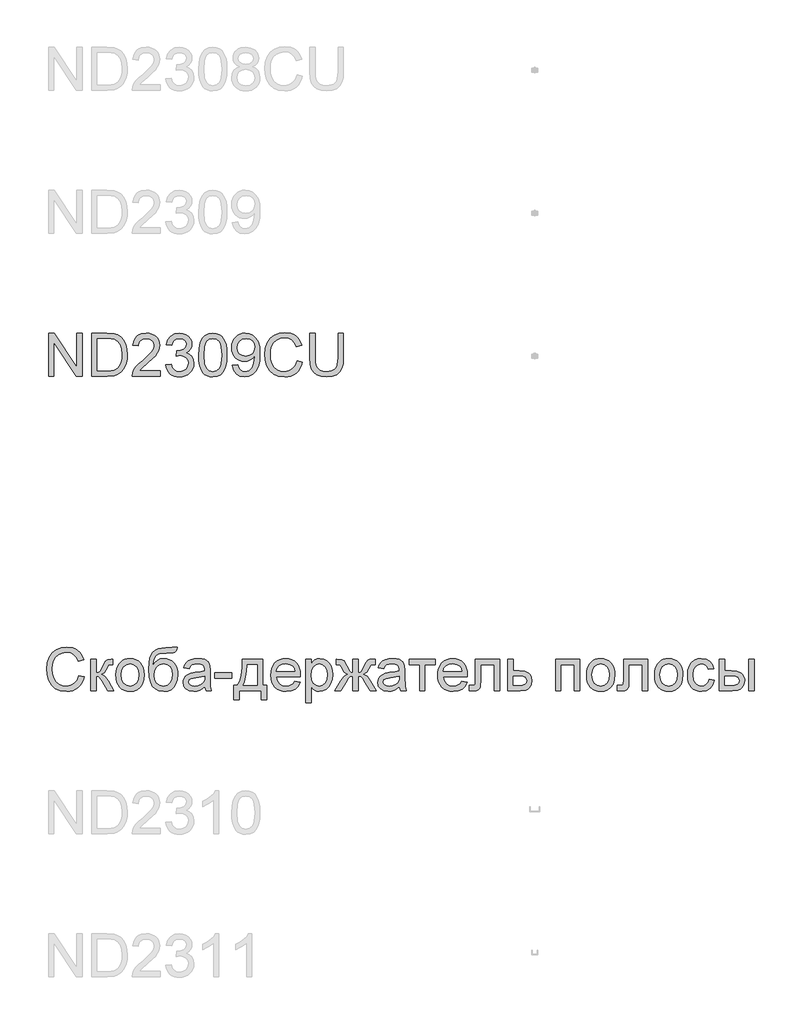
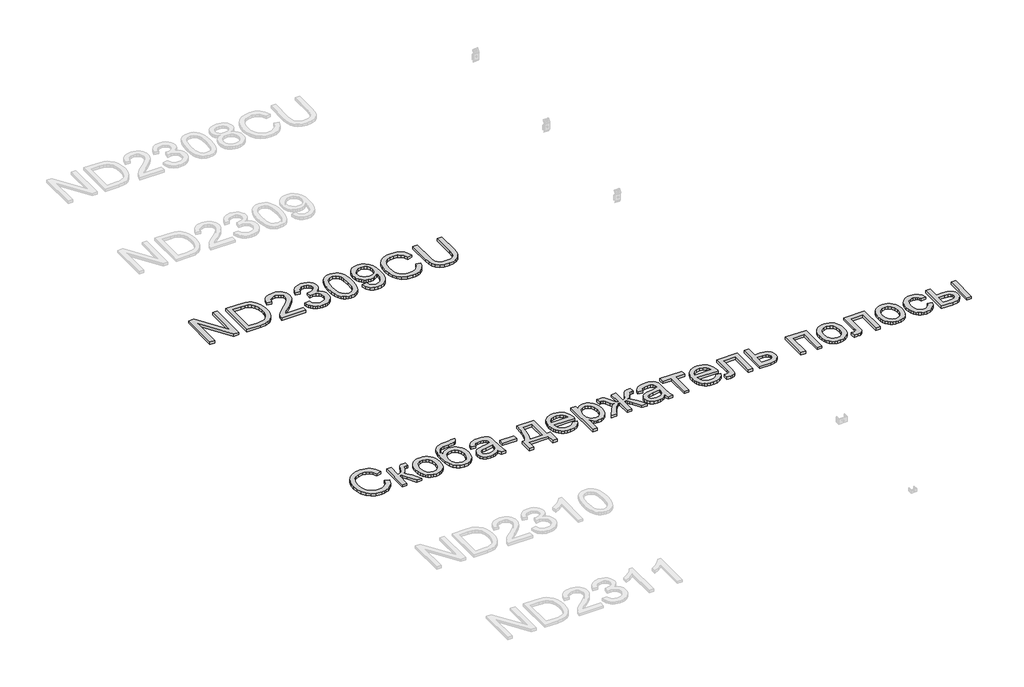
# One storey, part 107 of 124: 2 proxies.
"""IFC4 building model written with IfcOpenShell, lengths in millimetres."""

from ifc_helpers import new_model, si_unit, origin, origin_with_axes, place, context, project, spatial, polyline, outline, extrude, element, save

model = new_model("IFC4")

# Units and contexts
model_context = context("Model", 3, world=origin())
ifc_project = project(units=[si_unit("LENGTHUNIT", "METRE", prefix="MILLI")], contexts=[model_context])

# Site, building, storey
site = spatial("IfcSite", under=ifc_project)
building = spatial("IfcBuilding", under=site)
storey = spatial("IfcBuildingStorey", under=building, Name="Этаж 01", Elevation=0.0)

# Proxies
placement = place(None, origin())
element("IfcBuildingElementProxy", 1, Name="300", ObjectType="300", at=placement, inside=storey, context=model_context, shape_type="SweptSolid", body=[
    extrude(outline(polyline([(34161.4897718, -16850.5404686), (34161.4897718, -16549.1715382), (34201.8096385, -16549.1715382), (34359.2631324, -16787.9269531), (34359.2631324, -16549.1715382), (34396.9342487, -16549.1715382), (34396.9342487, -16850.5404686), (34356.6143821, -16850.5404686), (34199.1608881, -16611.7114774), (34199.1608881, -16850.5404686), (34161.4897718, -16850.5404686)])), origin_with_axes(), (0.0, 0.0, 1.0), 20.0),
    extrude(outline(polyline([(34462.8587023, -16850.5404686), (34462.8587023, -16549.1715382), (34566.8221541, -16549.1715382), (34620.6065018, -16553.5125457), (34644.6291961, -16561.8818611), (34664.899494, -16575.0704306), (34685.7400091, -16598.0262671), (34700.5840476, -16626.57391), (34709.4683977, -16660.1615361), (34712.4298478, -16698.2373226), (34710.4248909, -16730.5833471), (34704.4100203, -16759.0482164), (34695.2497586, -16783.2824429), (34683.8086286, -16802.9365385), (34670.6384532, -16818.4519616), (34656.2910553, -16830.2701707), (34639.819139, -16839.0349592), (34620.275408, -16845.3901207), (34571.8253492, -16850.5404686), (34462.8587023, -16850.5404686)]), holes=[polyline([(34500.5298186, -16812.8693523), (34567.1900361, -16812.8693523), (34594.7627916, -16811.508189), (34615.6768831, -16807.4246988), (34631.4590207, -16800.8580052), (34643.6359147, -16792.0472314), (34656.7233167, -16775.740862), (34666.554963, -16754.6336325), (34672.7077894, -16728.6335725), (34674.7587315, -16697.6487114), (34670.7396207, -16656.5930808), (34658.6822883, -16626.2796044), (34640.8676027, -16605.4574835), (34619.5764322, -16592.8759192), (34597.9081827, -16588.3509707), (34566.1599665, -16586.8426545), (34500.5298186, -16586.8426545), (34500.5298186, -16812.8693523)])]), origin_with_axes(), (0.0, 0.0, 1.0), 20.0),
    extrude(outline(polyline([(34943.1654352, -16812.8693523), (34943.1654352, -16850.5404686), (34745.3920746, -16850.5404686), (34749.4387765, -16824.5679998), (34758.7277969, -16804.2701107), (34772.3210366, -16784.5792269), (34791.9843293, -16763.9686381), (34819.4835084, -16740.9116341), (34860.1344689, -16704.8040162), (34884.5250452, -16678.1509657), (34896.7203333, -16656.5195044), (34900.7854293, -16635.4766543), (34896.9502595, -16616.613505), (34885.4447501, -16600.9325349), (34867.7588232, -16590.3651246), (34845.3824009, -16586.8426545), (34821.8839384, -16590.2823512), (34803.6277944, -16600.6014411), (34791.8463735, -16616.990584), (34787.7720804, -16638.6404394), (34750.1009641, -16633.9315499), (34759.2336346, -16597.4928383), (34767.7799932, -16582.9569009), (34778.9797007, -16570.8765759), (34792.5752397, -16561.3806219), (34808.3090928, -16554.5977976), (34846.1917413, -16549.1715382), (34866.381565, -16550.6798544), (34884.3503012, -16555.2048029), (34900.0979499, -16562.7463838), (34913.624511, -16573.3045971), (34924.4885261, -16586.0976935), (34932.248537, -16600.3439237), (34936.9045435, -16616.0432879), (34938.4565456, -16633.1957859), (34936.7826826, -16651.2128066), (34931.7610933, -16668.9171276), (34922.849152, -16686.9249513), (34909.5042326, -16705.8524799), (34888.2314563, -16728.4496315), (34855.5359439, -16757.4663239), (34812.1994449, -16793.7027004), (34795.2032967, -16812.8693523), (34943.1654352, -16812.8693523)])), origin_with_axes(), (0.0, 0.0, 1.0), 20.0),
    extrude(outline(polyline([(34980.8365515, -16770.4893465), (35018.5076678, -16765.7804569), (35026.9413625, -16789.4536633), (35039.2930005, -16805.438136), (35056.169587, -16814.5432154), (35078.1781274, -16817.5782419), (35104.0034435, -16813.4027812), (35123.9426476, -16800.8763993), (35136.6897587, -16782.1879939), (35140.9387958, -16759.526463), (35136.7265469, -16738.0145634), (35124.0898004, -16720.5677597), (35104.9599367, -16709.007068), (35081.2683362, -16705.1535041), (35054.8544089, -16709.2737825), (35059.0482637, -16671.6026662), (35065.0815284, -16672.0441246), (35087.6510888, -16669.3401919), (35107.8294162, -16661.2283939), (35122.0664494, -16647.5063955), (35126.8121272, -16627.9718616), (35123.3724305, -16611.7022803), (35113.0533406, -16598.5045137), (35097.3079912, -16589.7581193), (35077.5895162, -16586.8426545), (35057.8342531, -16589.7857105), (35041.6842335, -16598.6148783), (35029.8936155, -16613.3301581), (35023.2165573, -16633.9315499), (34985.545441, -16629.2226603), (34996.6370832, -16595.3959109), (35016.3739522, -16570.1408119), (35043.3764907, -16554.4138566), (35076.265141, -16549.1715382), (35099.9475445, -16551.7559092), (35121.6985674, -16559.5090223), (35140.0374849, -16571.7410986), (35153.4835718, -16587.7623595), (35161.7333256, -16606.2208386), (35164.4832435, -16625.7645696), (35161.8712813, -16643.9747283), (35154.0353948, -16660.4926299), (35141.0859486, -16674.5641162), (35123.1333072, -16685.4350292), (35146.7145431, -16694.9631729), (35164.1889379, -16711.1867689), (35175.0046685, -16733.2229004), (35178.6099121, -16760.1886506), (35176.8072903, -16779.3001203), (35171.399425, -16796.9032737), (35162.3863161, -16812.998111), (35149.7679637, -16827.5846321), (35134.3950948, -16839.6879498), (35117.1184366, -16848.3331767), (35097.9379891, -16853.5203128), (35076.8537522, -16855.2493582), (35057.7974649, -16853.7732317), (35040.4334347, -16849.3448522), (35024.7616617, -16841.9642196), (35010.7821459, -16831.6313341), (34999.0605058, -16818.9532008), (34990.1623601, -16804.5368251), (34984.0877086, -16788.382207), (34980.8365515, -16770.4893465)])), origin_with_axes(), (0.0, 0.0, 1.0), 20.0),
    extrude(outline(polyline([(35211.5721389, -16702.2840246), (35214.3404509, -16654.045498), (35222.6453869, -16615.5742383), (35236.4041735, -16586.2816345), (35255.5340373, -16565.5790752), (35280.1729339, -16553.2734224), (35310.4588192, -16549.1715382), (35333.6721731, -16551.5995594), (35354.4575058, -16558.8836229), (35371.8399301, -16570.7386202), (35384.8445586, -16586.8794427), (35394.6670079, -16607.1681347), (35402.5028944, -16631.4667405), (35407.6348482, -16662.3228429), (35409.3454995, -16702.2840246), (35406.6047786, -16750.2466397), (35398.382616, -16788.6259289), (35384.7066028, -16817.9461239), (35365.6043302, -16838.7314566), (35340.9102513, -16851.1198828), (35310.4588192, -16855.2493582), (35289.7102746, -16853.4559335), (35271.3161749, -16848.0756593), (35255.2765199, -16839.1085356), (35241.5913097, -16826.5545626), (35228.4579224, -16803.860842), (35219.0769316, -16775.5845121), (35213.448337, -16741.725573), (35211.5721389, -16702.2840246)]), holes=[polyline([(35249.2432552, -16702.2104482), (35253.6578391, -16761.4670406), (35259.176069, -16781.7350392), (35266.9015909, -16795.7628396), (35286.6200659, -16812.1243913), (35310.4588192, -16817.5782419), (35334.2975725, -16812.1059972), (35354.0160474, -16795.6892632), (35361.7415693, -16781.6384702), (35367.2597992, -16761.3750701), (35371.6743832, -16702.2104482), (35367.406952, -16644.287428), (35362.0726631, -16624.086108), (35354.6046586, -16609.7249146), (35334.9229718, -16592.5632195), (35310.0173608, -16586.8426545), (35286.4361249, -16591.8826378), (35267.4902021, -16607.0025878), (35259.5071628, -16622.6375726), (35253.8049919, -16643.7172109), (35249.2432552, -16702.2104482)])]), origin_with_axes(), (0.0, 0.0, 1.0), 20.0),
    extrude(outline(polyline([(35447.0166158, -16775.198236), (35484.6877321, -16770.4893465), (35491.125667, -16791.8724875), (35501.6103039, -16806.4314174), (35515.8841253, -16814.7915358), (35533.6896138, -16817.5782419), (35549.6648895, -16815.7848171), (35564.1870312, -16810.404543), (35576.2535607, -16802.0260305), (35584.8619994, -16791.237891), (35597.1860462, -16758.4963934), (35602.6306997, -16714.7920124), (35602.4099705, -16707.4343725), (35589.3593568, -16723.3636629), (35572.2804351, -16735.9820153), (35552.4056103, -16744.2041779), (35530.9672871, -16746.9448988), (35513.0721273, -16745.2710357), (35496.6163058, -16740.2494465), (35481.5998226, -16731.8801311), (35468.0226777, -16720.1630895), (35456.7723864, -16705.7099257), (35448.7364641, -16689.1322433), (35443.9149107, -16670.4300423), (35442.3077262, -16649.6033229), (35443.9930856, -16628.0822262), (35449.0491638, -16608.7684214), (35457.4759608, -16591.6619086), (35469.2734765, -16576.7626878), (35483.609378, -16564.6915599), (35499.6513322, -16556.0693256), (35517.3993392, -16550.895985), (35536.853399, -16549.1715382), (35564.9503864, -16553.1078755), (35590.5273821, -16564.9168876), (35611.9197201, -16584.0099631), (35627.4627344, -16609.798491), (35636.9264987, -16645.4462563), (35640.0810868, -16694.1170443), (35636.9356958, -16745.7216912), (35627.4995226, -16785.6092965), (35611.8553408, -16815.582482), (35590.0859237, -16837.4438696), (35563.1293705, -16850.797986), (35531.9237803, -16855.2493582), (35499.7157116, -16849.9978427), (35474.0191542, -16834.2432963), (35456.0481188, -16808.9790002), (35447.0166158, -16775.198236)]), holes=[polyline([(35602.4099705, -16648.7204061), (35598.3448745, -16623.1893956), (35586.1495864, -16603.5444971), (35567.2220577, -16591.0181151), (35542.9602401, -16586.8426545), (35517.7971116, -16591.3400119), (35497.6371783, -16604.8320841), (35484.3934265, -16625.479461), (35479.9788425, -16651.4427328), (35484.1543032, -16674.7204661), (35496.6806851, -16693.1973393), (35516.3439778, -16705.2546717), (35541.9301705, -16709.2737825), (35565.9988501, -16705.2546717), (35585.3770342, -16693.1973393), (35598.1517364, -16674.0398844), (35602.4099705, -16648.7204061)])]), origin_with_axes(), (0.0, 0.0, 1.0), 20.0),
    extrude(outline(polyline([(35899.0700114, -16743.4132316), (35936.7411278, -16753.1253163), (35929.2869188, -16776.5525016), (35919.3587035, -16797.0228354), (35906.9564817, -16814.5363176), (35892.0802535, -16829.0929483), (35875.0657113, -16840.5363776), (35856.2485472, -16848.7102557), (35835.6287614, -16853.6145826), (35813.2063538, -16855.2493582), (35769.5111698, -16850.3013453), (35734.8107006, -16835.4573068), (35708.2128324, -16811.2322775), (35688.8254512, -16778.141292), (35676.988848, -16739.237771), (35673.0433136, -16697.575135), (35677.5038828, -16653.6316307), (35690.8855904, -16615.6846029), (35712.4894605, -16584.9388652), (35741.6165175, -16562.599231), (35776.1606369, -16548.9967942), (35814.0156942, -16544.4626487), (35855.3196452, -16550.3303665), (35873.2883814, -16557.6650138), (35889.4682914, -16567.9335199), (35903.5926607, -16580.8645721), (35915.394775, -16596.1868572), (35932.0322382, -16634.0051263), (35894.3611219, -16642.981447), (35881.3013111, -16615.509859), (35863.4590343, -16596.6651038), (35840.6135624, -16585.7665997), (35812.5441662, -16582.133765), (35780.1889447, -16586.1620728), (35753.6094706, -16598.2469963), (35733.4403402, -16617.1193427), (35720.31615, -16641.509919), (35713.1148599, -16669.0826745), (35710.7144299, -16697.5015586), (35713.5563183, -16732.3031954), (35722.0819836, -16762.3959426), (35736.6133224, -16786.630169), (35757.4722315, -16803.8562435), (35782.4790101, -16814.1477423), (35809.4539574, -16817.5782419), (35840.898671, -16812.9061405), (35867.1010661, -16798.8898365), (35886.8839204, -16775.6764826), (35899.0700114, -16743.4132316)])), origin_with_axes(), (0.0, 0.0, 1.0), 20.0),
    extrude(outline(polyline([(36186.3122733, -16549.1715382), (36223.9833896, -16549.1715382), (36223.9833896, -16723.0325691), (36221.4266097, -16763.7479089), (36213.7562701, -16795.100652), (36199.4272664, -16819.2888931), (36176.8944942, -16838.5107274), (36146.1027712, -16851.0647005), (36106.9969151, -16855.2493582), (36068.7463847, -16851.6073264), (36038.1661938, -16840.6812312), (36015.2471455, -16822.8481515), (35999.9800427, -16798.4851663), (35991.3991952, -16765.8080481), (35988.5389127, -16723.0325691), (35988.5389127, -16549.1715382), (36026.210029, -16549.1715382), (36026.210029, -16721.7081939), (36028.0678331, -16755.5625345), (36033.6412453, -16779.1345734), (36043.7396061, -16795.4593369), (36059.1722557, -16807.5718516), (36079.2954009, -16815.0766443), (36103.465248, -16817.5782419), (36141.7801578, -16812.630229), (36156.1229571, -16806.445213), (36167.2559859, -16797.7861905), (36175.5931116, -16785.6092965), (36181.5482014, -16768.8706657), (36186.3122733, -16721.7081939), (36186.3122733, -16549.1715382)])), origin_with_axes(), (0.0, 0.0, 1.0), 20.0),
])
element("IfcBuildingElementProxy", 2, Name="300", ObjectType="300", at=placement, inside=storey, context=model_context, shape_type="SweptSolid", body=[
    extrude(outline(polyline([(34373.3898011, -18943.4132316), (34411.0609174, -18953.1253163), (34403.6067084, -18976.5525016), (34393.6784931, -18997.0228354), (34381.2762713, -19014.5363176), (34366.4000431, -19029.0929483), (34349.3855009, -19040.5363776), (34330.5683368, -19048.7102557), (34309.948551, -19053.6145826), (34287.5261434, -19055.2493582), (34243.8309594, -19050.3013453), (34209.1304902, -19035.4573068), (34182.532622, -19011.2322775), (34163.1452408, -18978.141292), (34151.3086376, -18939.237771), (34147.3631032, -18897.575135), (34151.8236724, -18853.6316307), (34165.20538, -18815.6846029), (34186.8092501, -18784.9388652), (34215.9363071, -18762.599231), (34250.4804265, -18748.9967942), (34288.3354838, -18744.4626487), (34329.6394348, -18750.3303665), (34347.608171, -18757.6650138), (34363.788081, -18767.9335199), (34377.9124503, -18780.8645721), (34389.7145646, -18796.1868572), (34406.3520278, -18834.0051263), (34368.6809115, -18842.981447), (34355.6211007, -18815.509859), (34337.7788239, -18796.6651038), (34314.933352, -18785.7665997), (34286.8639558, -18782.133765), (34254.5087343, -18786.1620728), (34227.9292602, -18798.2469963), (34207.7601298, -18817.1193427), (34194.6359396, -18841.509919), (34187.4346495, -18869.0826745), (34185.0342195, -18897.5015586), (34187.8761079, -18932.3031954), (34196.4017732, -18962.3959426), (34210.933112, -18986.630169), (34231.7920211, -19003.8562435), (34256.7987997, -19014.1477423), (34283.773747, -19017.5782419), (34315.2184606, -19012.9061405), (34341.4208557, -18998.8898365), (34361.20371, -18975.6764826), (34373.3898011, -18943.4132316)])), origin_with_axes(), (0.0, 0.0, 1.0), 20.0),
    extrude(outline(polyline([(34458.1498127, -18829.2226603), (34495.820929, -18829.2226603), (34495.820929, -18923.4004511), (34511.1432141, -18921.7081939), (34521.0576339, -18916.6314224), (34529.8316195, -18903.3876706), (34541.732602, -18877.1944725), (34558.9126912, -18843.165388), (34574.0694294, -18832.0921399), (34601.6237909, -18829.2226603), (34608.834278, -18829.2226603), (34608.834278, -18867.1145058), (34598.6807349, -18866.8937766), (34580.2866351, -18870.8669022), (34567.3371889, -18895.6621487), (34552.1436625, -18922.4807461), (34530.843295, -18935.6141333), (34542.7810657, -18940.9162326), (34554.6084719, -18950.2742309), (34577.9321904, -18981.1579243), (34618.252057, -19050.5404686), (34575.4305928, -19050.5404686), (34535.9200665, -18982.6294523), (34516.0544388, -18953.8978685), (34506.7654184, -18948.6831412), (34495.820929, -18946.9448988), (34495.820929, -19050.5404686), (34458.1498127, -19050.5404686), (34458.1498127, -18829.2226603)])), origin_with_axes(), (0.0, 0.0, 1.0), 20.0),
    extrude(outline(polyline([(34632.3787257, -18939.8815645), (34634.4158722, -18911.2189585), (34640.5273118, -18886.5202811), (34650.7130446, -18865.7855321), (34664.9730704, -18849.0147117), (34679.3296653, -18838.29555), (34695.1761822, -18830.639006), (34712.5126213, -18826.0450796), (34731.3389824, -18824.5137708), (34752.1220158, -18826.3784727), (34770.913888, -18831.9725783), (34787.7145989, -18841.2960876), (34802.5241484, -18854.3490006), (34814.6113712, -18870.689859), (34823.2451018, -18889.8772043), (34828.4253401, -18911.9110365), (34830.1520863, -18936.7913557), (34827.0986657, -18974.8487481), (34817.938404, -19003.8194553), (34802.9380157, -19025.5152959), (34782.3642151, -19041.748089), (34757.9276536, -19051.8740409), (34731.3389824, -19055.2493582), (34710.2524462, -19053.3915541), (34691.2858301, -19047.8181419), (34674.439134, -19038.5291215), (34659.7123579, -19025.524493), (34647.7538938, -19009.0249855), (34639.2121337, -18989.2513282), (34634.0870777, -18966.2035212), (34632.3787257, -18939.8815645)]), holes=[polyline([(34670.049842, -18939.8079881), (34674.4092436, -18973.901452), (34687.4874485, -18998.1908607), (34707.1691353, -19012.7313966), (34731.3389824, -19017.5782419), (34755.3984648, -19012.7038054), (34775.0433634, -18998.0804961), (34788.1215683, -18973.4691906), (34792.48097, -18938.6307657), (34788.0939772, -18905.5305832), (34774.9329988, -18881.5722683), (34755.2605091, -18867.0317324), (34731.3389824, -18862.1848871), (34707.1691353, -18867.0133383), (34687.4874485, -18881.4986919), (34674.4092436, -18905.7329183), (34670.049842, -18939.8079881)])]), origin_with_axes(), (0.0, 0.0, 1.0), 20.0),
    extrude(outline(polyline([(35027.9254469, -18744.4626487), (35060.8876736, -18744.4626487), (35057.3192183, -18762.3693048), (35051.175589, -18773.8564201), (35042.6591208, -18780.6530399), (35031.9721488, -18784.4882097), (34985.8397466, -18786.8426545), (34947.5340339, -18789.0131583), (34923.7044776, -18795.5246696), (34909.4490503, -18806.8186468), (34899.8657243, -18823.3365484), (34894.2279328, -18845.207133), (34891.8091087, -18872.5591594), (34906.9566498, -18851.5163092), (34924.4402416, -18836.5067238), (34944.2782782, -18827.5120091), (34966.4891537, -18824.5137708), (34987.0123705, -18826.4198594), (35005.6869803, -18832.1381252), (35022.512983, -18841.6685681), (35037.4903787, -18855.0111882), (35049.7868344, -18871.6049654), (35058.5700171, -18890.8888798), (35063.8399266, -18912.8629312), (35065.5965632, -18937.5271197), (35062.1108813, -18973.4875847), (35051.6538356, -19002.3479273), (35036.4143239, -19024.7795319), (35018.5812442, -19041.4537834), (34995.9932897, -19051.8004645), (34966.4891537, -19055.2493582), (34932.4876603, -19050.8071831), (34907.0026351, -19037.4806578), (34888.2498504, -19017.228754), (34874.4450785, -18992.0104432), (34865.9470044, -18954.0358243), (34863.114313, -18895.5149959), (34864.90084, -18855.850419), (34870.2604208, -18823.2353809), (34879.1930555, -18797.6698815), (34891.6987441, -18779.1539208), (34907.9108437, -18766.0366284), (34927.9627117, -18756.6671338), (34951.8543481, -18751.0454371), (34979.5857527, -18749.1715382), (35021.5243002, -18748.3254096), (35027.9254469, -18744.4626487)]), holes=[polyline([(35027.9254469, -18936.3498973), (35023.8419567, -18906.7078056), (35011.5914863, -18882.9702198), (34991.9097995, -18867.3812203), (34965.5326605, -18862.1848871), (34938.0334813, -18867.6755259), (34926.9464377, -18874.5388244), (34917.6344247, -18884.1474422), (34904.9976782, -18909.7980143), (34900.7854293, -18942.8246205), (34905.4391366, -18974.8395511), (34919.4002583, -18998.3380135), (34940.185591, -19012.7681848), (34965.3119313, -19017.5782419), (34990.5670303, -19012.0140267), (35010.5614167, -18995.3213812), (35023.5844393, -18969.4500799), (35027.9254469, -18936.3498973)])]), origin_with_axes(), (0.0, 0.0, 1.0), 20.0),
    extrude(outline(polyline([(35253.9521447, -19022.2871314), (35235.9535181, -19037.7197811), (35217.4214626, -19047.8181419), (35197.9329139, -19053.3915541), (35177.0648077, -19055.2493582), (35145.583306, -19050.7795919), (35122.360755, -19037.3702932), (35108.0409484, -19017.0080248), (35103.2676795, -18991.6793494), (35105.0703013, -18976.0627587), (35110.4781666, -18961.8809078), (35118.8198908, -18949.740802), (35129.4240893, -18940.2494465), (35155.8012284, -18927.8886114), (35188.3955732, -18922.2232287), (35226.9128181, -18916.2635404), (35253.7314155, -18909.2737825), (35253.9521447, -18900.886073), (35251.3585766, -18884.0738658), (35243.5778724, -18873.0741942), (35226.1770541, -18864.9072139), (35201.9336306, -18862.1848871), (35179.4928289, -18863.9967059), (35163.8210559, -18869.4321624), (35153.1340839, -18879.4845379), (35145.6476853, -18895.1471139), (35107.976569, -18890.4382243), (35114.5156715, -18869.8368326), (35124.2737414, -18853.6500248), (35138.1612867, -18841.2707957), (35157.0888154, -18832.0921399), (35180.2377899, -18826.4083631), (35206.7896729, -18824.5137708), (35232.256304, -18826.1876339), (35252.4438285, -18831.2092231), (35267.6649461, -18838.7600011), (35278.2323564, -18848.0214303), (35285.2405084, -18859.4717574), (35289.783851, -18873.589229), (35291.623261, -18906.5514557), (35291.623261, -18953.4196219), (35293.5362474, -19018.8658289), (35301.0410401, -19050.5404686), (35263.3699238, -19050.5404686), (35253.9521447, -19022.2871314)]), holes=[polyline([(35253.9521447, -18946.9448988), (35193.1780391, -18958.4963934), (35160.7676353, -18964.6032346), (35146.0891437, -18974.5360484), (35140.9387958, -18989.030599), (35143.743896, -19000.2326058), (35152.1591966, -19009.4112616), (35166.0007567, -19015.5364968), (35185.0846352, -19017.5782419), (35205.3181449, -19015.3249646), (35223.1972099, -19008.565133), (35237.6917605, -18998.604728), (35247.7717272, -18986.7497307), (35252.2414934, -18974.5360484), (35253.7314155, -18957.6134767), (35253.9521447, -18946.9448988)])]), origin_with_axes(), (0.0, 0.0, 1.0), 20.0),
    extrude(outline(polyline([(35324.5854878, -18961.0715674), (35324.5854878, -18923.4004511), (35442.3077262, -18923.4004511), (35442.3077262, -18961.0715674), (35324.5854878, -18961.0715674)])), origin_with_axes(), (0.0, 0.0, 1.0), 20.0),
    extrude(outline(polyline([(35517.6499588, -18829.2226603), (35658.916645, -18829.2226603), (35658.916645, -19012.8693523), (35687.1699822, -19012.8693523), (35687.1699822, -19111.7560326), (35649.4988659, -19111.7560326), (35649.4988659, -19050.5404686), (35494.1055112, -19050.5404686), (35494.1055112, -19111.7560326), (35456.4343949, -19111.7560326), (35456.4343949, -19012.8693523), (35479.9788425, -19012.8693523), (35497.0945524, -18981.9396736), (35509.0783084, -18941.0219987), (35515.9301105, -18890.1163276), (35517.6499588, -18829.2226603)]), holes=[polyline([(35550.6121856, -18866.8937766), (35547.5219769, -18913.0169818), (35541.7830177, -18952.7206461), (35533.3953082, -18986.0047696), (35522.3588484, -19012.8693523), (35621.2455287, -19012.8693523), (35621.2455287, -18866.8937766), (35550.6121856, -18866.8937766)])]), origin_with_axes(), (0.0, 0.0, 1.0), 20.0),
    extrude(outline(polyline([(35884.5018844, -18984.6160151), (35921.4372368, -18989.3249046), (35908.1291056, -19017.1551776), (35886.8931174, -19037.9589044), (35858.2075188, -19050.9267447), (35822.5505565, -19055.2493582), (35799.1762542, -19053.3846563), (35778.3495347, -19047.7905507), (35760.0703981, -19038.4670414), (35744.3388443, -19025.4141284), (35731.6883022, -19008.9950951), (35722.6522007, -18989.573225), (35717.2305398, -18967.1485181), (35715.4233195, -18941.7209745), (35717.2489339, -18915.4312074), (35722.7257771, -18892.2592402), (35731.8538491, -18872.205073), (35744.6331499, -18855.2687056), (35760.323317, -18841.8134216), (35778.1839878, -18832.2025045), (35798.2151625, -18826.4359542), (35820.4168409, -18824.5137708), (35841.9034487, -18826.4313557), (35861.3345158, -18832.1841104), (35878.7100423, -18841.7720349), (35894.0300281, -18855.1951292), (35906.5357167, -18872.0947084), (35915.4683514, -18892.1120874), (35920.8279322, -18915.2472664), (35922.6144591, -18941.5002453), (35922.3937299, -18951.6537883), (35753.0944358, -18951.6537883), (35759.6151441, -18979.8519433), (35774.7626853, -19000.5820937), (35796.6240728, -19013.3292048), (35823.2863204, -19017.5782419), (35843.3358892, -19015.6100732), (35860.2216728, -19009.7055672), (35873.9436712, -18999.4968418), (35884.5018844, -18984.6160151)]), holes=[polyline([(35753.0944358, -18913.982672), (35884.9433428, -18913.982672), (35879.8481772, -18894.0802561), (35869.860181, -18879.8432229), (35847.8976259, -18866.599471), (35820.2696881, -18862.1848871), (35794.8766334, -18865.7073572), (35773.8797685, -18876.2747675), (35759.2840503, -18892.7466839), (35753.0944358, -18913.982672)])]), origin_with_axes(), (0.0, 0.0, 1.0), 20.0),
    extrude(outline(polyline([(35960.2855754, -19135.3004803), (35960.2855754, -18829.2226603), (35997.9566918, -18829.2226603), (35997.9566918, -18866.1580127), (36010.2439504, -18847.9386568), (36024.002737, -18834.9248313), (36040.042392, -18827.1165359), (36059.1722557, -18824.5137708), (36084.6480839, -18828.1558026), (36106.9233387, -18839.0818978), (36125.0599211, -18856.629869), (36138.1197319, -18880.1375285), (36146.0108007, -18907.894225), (36148.641157, -18938.1893073), (36145.6705099, -18970.406573), (36136.7585685, -18999.2209303), (36122.1904415, -19023.1700482), (36102.2512374, -19040.7915958), (36079.0286864, -19051.6349176), (36054.610519, -19055.2493582), (36037.2924741, -19052.8305341), (36021.8322332, -19045.5740617), (36008.5976785, -19034.6203753), (35997.9566918, -19021.109909), (35997.9566918, -19135.3004803), (35960.2855754, -19135.3004803)]), holes=[polyline([(35997.9566918, -18941.6473981), (36002.0309848, -18975.4189652), (36014.2538641, -18999.0369893), (36032.289279, -19012.9429287), (36053.8011786, -19017.5782419), (36075.6625662, -19012.7773818), (36094.1578335, -18998.3748017), (36106.7669889, -18973.8922549), (36110.9700407, -18938.8514949), (36106.8681564, -18905.2638687), (36094.5625037, -18881.3147509), (36076.55468, -18866.967353), (36055.346283, -18862.1848871), (36034.0551125, -18867.2708557), (36015.3575101, -18882.5287614), (36002.3068963, -18907.4803578), (35997.9566918, -18941.6473981)])]), origin_with_axes(), (0.0, 0.0, 1.0), 20.0),
    extrude(outline(polyline([(36327.5789594, -18829.2226603), (36327.5789594, -18923.4004511), (36340.8686965, -18921.4598736), (36349.5415145, -18915.638141), (36370.3268473, -18875.3550625), (36383.2946876, -18850.2471164), (36395.1220937, -18836.727453), (36409.4878857, -18831.0988585), (36430.3651889, -18829.2226603), (36445.3011979, -18829.2226603), (36445.3011979, -18867.1145058), (36434.9269256, -18866.8937766), (36415.5027563, -18870.7933258), (36402.0382753, -18895.2206903), (36386.4032905, -18922.0024995), (36364.0728534, -18935.6141333), (36376.4658781, -18940.9162326), (36388.7025529, -18950.2742309), (36412.7068531, -18981.1579243), (36454.718977, -19050.5404686), (36411.5296307, -19050.5404686), (36370.1796945, -18982.1144175), (36358.8765202, -18964.1525791), (36349.1000561, -18953.6771393), (36339.2132275, -18948.6279589), (36327.5789594, -18946.9448988), (36327.5789594, -19050.5404686), (36289.9078431, -19050.5404686), (36289.9078431, -18946.9448988), (36278.3655455, -18948.5911707), (36268.4603228, -18953.5299865), (36258.6102824, -18963.9318499), (36247.2335317, -18981.9672647), (36205.8835954, -19050.5404686), (36162.7678256, -19050.5404686), (36204.6327966, -18981.1579243), (36228.8210378, -18950.2742309), (36241.122092, -18940.9162326), (36253.561102, -18935.6141333), (36239.176916, -18928.4036462), (36229.8695015, -18920.6045479), (36209.5624154, -18881.9769384), (36199.6296015, -18869.2482214), (36183.3692173, -18866.6730474), (36172.1856047, -18866.8937766), (36172.1856047, -18829.2226603), (36177.8509874, -18829.2226603), (36210.8867906, -18831.5771051), (36228.0300915, -18841.5834954), (36247.2335317, -18875.3550625), (36267.7981352, -18915.3806236), (36276.4709533, -18921.3954942), (36289.9078431, -18923.4004511), (36289.9078431, -18829.2226603), (36327.5789594, -18829.2226603)])), origin_with_axes(), (0.0, 0.0, 1.0), 20.0),
    extrude(outline(polyline([(36614.8212213, -19022.2871314), (36596.8225947, -19037.7197811), (36578.2905391, -19047.8181419), (36558.8019904, -19053.3915541), (36537.9338843, -19055.2493582), (36506.4523825, -19050.7795919), (36483.2298316, -19037.3702932), (36468.9100249, -19017.0080248), (36464.136756, -18991.6793494), (36465.9393778, -18976.0627587), (36471.3472431, -18961.8809078), (36479.6889674, -18949.740802), (36490.2931659, -18940.2494465), (36516.670305, -18927.8886114), (36549.2646497, -18922.2232287), (36587.7818946, -18916.2635404), (36614.6004921, -18909.2737825), (36614.8212213, -18900.886073), (36612.2276532, -18884.0738658), (36604.446949, -18873.0741942), (36587.0461306, -18864.9072139), (36562.8027071, -18862.1848871), (36540.3619054, -18863.9967059), (36524.6901324, -18869.4321624), (36514.0031605, -18879.4845379), (36506.5167619, -18895.1471139), (36468.8456456, -18890.4382243), (36475.384748, -18869.8368326), (36485.142818, -18853.6500248), (36499.0303633, -18841.2707957), (36517.9578919, -18832.0921399), (36541.1068665, -18826.4083631), (36567.6587495, -18824.5137708), (36593.1253806, -18826.1876339), (36613.3129051, -18831.2092231), (36628.5340226, -18838.7600011), (36639.1014329, -18848.0214303), (36646.109585, -18859.4717574), (36650.6529276, -18873.589229), (36652.4923376, -18906.5514557), (36652.4923376, -18953.4196219), (36654.4053239, -19018.8658289), (36661.9101166, -19050.5404686), (36624.2390003, -19050.5404686), (36614.8212213, -19022.2871314)]), holes=[polyline([(36614.8212213, -18946.9448988), (36554.0471157, -18958.4963934), (36521.6367119, -18964.6032346), (36506.9582203, -18974.5360484), (36501.8078723, -18989.030599), (36504.6129726, -19000.2326058), (36513.0282732, -19009.4112616), (36526.8698333, -19015.5364968), (36545.9537118, -19017.5782419), (36566.1872215, -19015.3249646), (36584.0662865, -19008.565133), (36598.5608371, -18998.604728), (36608.6408037, -18986.7497307), (36613.11057, -18974.5360484), (36614.6004921, -18957.6134767), (36614.8212213, -18946.9448988)])]), origin_with_axes(), (0.0, 0.0, 1.0), 20.0),
    extrude(outline(polyline([(36685.4545643, -18829.2226603), (36864.3923668, -18829.2226603), (36864.3923668, -18866.8937766), (36793.7590237, -18866.8937766), (36793.7590237, -19050.5404686), (36756.0879074, -19050.5404686), (36756.0879074, -18866.8937766), (36685.4545643, -18866.8937766), (36685.4545643, -18829.2226603)])), origin_with_axes(), (0.0, 0.0, 1.0), 20.0),
    extrude(outline(polyline([(37052.3064899, -18984.6160151), (37089.2418422, -18989.3249046), (37075.9337111, -19017.1551776), (37054.6977229, -19037.9589044), (37026.0121243, -19050.9267447), (36990.3551619, -19055.2493582), (36966.9808597, -19053.3846563), (36946.1541402, -19047.7905507), (36927.8750036, -19038.4670414), (36912.1434498, -19025.4141284), (36899.4929077, -19008.9950951), (36890.4568062, -18989.573225), (36885.0351452, -18967.1485181), (36883.2279249, -18941.7209745), (36885.0535393, -18915.4312074), (36890.5303826, -18892.2592402), (36899.6584546, -18872.205073), (36912.4377554, -18855.2687056), (36928.1279225, -18841.8134216), (36945.9885933, -18832.2025045), (36966.019768, -18826.4359542), (36988.2214464, -18824.5137708), (37009.7080541, -18826.4313557), (37029.1391213, -18832.1841104), (37046.5146478, -18841.7720349), (37061.8346336, -18855.1951292), (37074.3403222, -18872.0947084), (37083.2729569, -18892.1120874), (37088.6325377, -18915.2472664), (37090.4190646, -18941.5002453), (37090.1983354, -18951.6537883), (36920.8990413, -18951.6537883), (36927.4197496, -18979.8519433), (36942.5672908, -19000.5820937), (36964.4286783, -19013.3292048), (36991.0909259, -19017.5782419), (37011.1404947, -19015.6100732), (37028.0262782, -19009.7055672), (37041.7482767, -18999.4968418), (37052.3064899, -18984.6160151)]), holes=[polyline([(36920.8990413, -18913.982672), (37052.7479483, -18913.982672), (37047.6527827, -18894.0802561), (37037.6647865, -18879.8432229), (37015.7022314, -18866.599471), (36988.0742936, -18862.1848871), (36962.6812389, -18865.7073572), (36941.684374, -18876.2747675), (36927.0886558, -18892.7466839), (36920.8990413, -18913.982672)])]), origin_with_axes(), (0.0, 0.0, 1.0), 20.0),
    extrude(outline(polyline([(37146.9257391, -18829.2226603), (37316.4457625, -18829.2226603), (37316.4457625, -19050.3197394), (37278.7746462, -19050.3197394), (37278.7746462, -18866.8937766), (37184.5968554, -18866.8937766), (37184.5968554, -18972.4759093), (37182.0584696, -19021.1834854), (37177.3035948, -19032.2107482), (37168.115742, -19041.748089), (37154.1730144, -19048.3423737), (37135.1535152, -19050.5404686), (37104.5457332, -19048.6274823), (37104.5457332, -19012.8693523), (37121.3947286, -19012.8693523), (37138.427665, -19010.5516958), (37145.2334819, -19003.1940559), (37146.9257391, -18970.3421937), (37146.9257391, -18829.2226603)])), origin_with_axes(), (0.0, 0.0, 1.0), 20.0),
    extrude(outline(polyline([(37372.9524369, -18829.2226603), (37410.6235532, -18829.2226603), (37410.6235532, -18909.2737825), (37454.0336287, -18909.2737825), (37491.6679568, -18913.9918691), (37506.8154979, -18919.8894773), (37519.5166238, -18928.1461288), (37529.5598023, -18938.4767151), (37536.7335012, -18950.5961276), (37542.4724603, -18980.2014312), (37537.5888268, -19007.1579844), (37522.9379264, -19029.9022887), (37511.7060292, -19038.9314924), (37497.5448716, -19045.3809237), (37460.4347754, -19050.5404686), (37372.9524369, -19050.5404686), (37372.9524369, -18829.2226603)]), holes=[polyline([(37410.6235532, -19012.8693523), (37445.793072, -19012.8693523), (37473.080719, -19010.8919866), (37491.2264984, -19004.9598894), (37501.4076326, -18994.8339375), (37504.801344, -18980.2750076), (37502.2905494, -18967.9693548), (37494.7581655, -18957.0984419), (37478.617343, -18949.4832846), (37450.2812323, -18946.9448988), (37410.6235532, -18946.9448988), (37410.6235532, -19012.8693523)])]), origin_with_axes(), (0.0, 0.0, 1.0), 20.0),
    extrude(outline(polyline([(37707.2835941, -18829.2226603), (37876.8036175, -18829.2226603), (37876.8036175, -19050.5404686), (37839.1325012, -19050.5404686), (37839.1325012, -18866.8937766), (37744.9547104, -18866.8937766), (37744.9547104, -19050.5404686), (37707.2835941, -19050.5404686), (37707.2835941, -18829.2226603)])), origin_with_axes(), (0.0, 0.0, 1.0), 20.0),
    extrude(outline(polyline([(37923.8925129, -18939.8815645), (37925.9296595, -18911.2189585), (37932.0410991, -18886.5202811), (37942.2268318, -18865.7855321), (37956.4868577, -18849.0147117), (37970.8434525, -18838.29555), (37986.6899695, -18830.639006), (38004.0264085, -18826.0450796), (38022.8527696, -18824.5137708), (38043.6358031, -18826.3784727), (38062.4276752, -18831.9725783), (38079.2283861, -18841.2960876), (38094.0379357, -18854.3490006), (38106.1251585, -18870.689859), (38114.758889, -18889.8772043), (38119.9391274, -18911.9110365), (38121.6658735, -18936.7913557), (38118.6124529, -18974.8487481), (38109.4521913, -19003.8194553), (38094.4518029, -19025.5152959), (38073.8780023, -19041.748089), (38049.4414408, -19051.8740409), (38022.8527696, -19055.2493582), (38001.7662335, -19053.3915541), (37982.7996174, -19047.8181419), (37965.9529213, -19038.5291215), (37951.2261451, -19025.524493), (37939.267681, -19009.0249855), (37930.725921, -18989.2513282), (37925.6008649, -18966.2035212), (37923.8925129, -18939.8815645)]), holes=[polyline([(37961.5636292, -18939.8079881), (37965.9230309, -18973.901452), (37979.0012358, -18998.1908607), (37998.6829225, -19012.7313966), (38022.8527696, -19017.5782419), (38046.9122521, -19012.7038054), (38066.5571506, -18998.0804961), (38079.6353556, -18973.4691906), (38083.9947572, -18938.6307657), (38079.6077644, -18905.5305832), (38066.446786, -18881.5722683), (38046.7742963, -18867.0317324), (38022.8527696, -18862.1848871), (37998.6829225, -18867.0133383), (37979.0012358, -18881.4986919), (37965.9230309, -18905.7329183), (37961.5636292, -18939.8079881)])]), origin_with_axes(), (0.0, 0.0, 1.0), 20.0),
    extrude(outline(polyline([(38182.8814375, -18829.2226603), (38352.4014609, -18829.2226603), (38352.4014609, -19050.3197394), (38314.7303446, -19050.3197394), (38314.7303446, -18866.8937766), (38220.5525538, -18866.8937766), (38220.5525538, -18972.4759093), (38218.014168, -19021.1834854), (38213.2592933, -19032.2107482), (38204.0714404, -19041.748089), (38190.1287128, -19048.3423737), (38171.1092137, -19050.5404686), (38140.5014317, -19048.6274823), (38140.5014317, -19012.8693523), (38157.350427, -19012.8693523), (38174.3833634, -19010.5516958), (38181.1891803, -19003.1940559), (38182.8814375, -18970.3421937), (38182.8814375, -18829.2226603)])), origin_with_axes(), (0.0, 0.0, 1.0), 20.0),
    extrude(outline(polyline([(38399.4903563, -18939.8815645), (38401.5275028, -18911.2189585), (38407.6389425, -18886.5202811), (38417.8246752, -18865.7855321), (38432.084701, -18849.0147117), (38446.4412959, -18838.29555), (38462.2878128, -18830.639006), (38479.6242519, -18826.0450796), (38498.450613, -18824.5137708), (38519.2336464, -18826.3784727), (38538.0255186, -18831.9725783), (38554.8262295, -18841.2960876), (38569.635779, -18854.3490006), (38581.7230018, -18870.689859), (38590.3567324, -18889.8772043), (38595.5369708, -18911.9110365), (38597.2637169, -18936.7913557), (38594.2102963, -18974.8487481), (38585.0500346, -19003.8194553), (38570.0496463, -19025.5152959), (38549.4758457, -19041.748089), (38525.0392842, -19051.8740409), (38498.450613, -19055.2493582), (38477.3640769, -19053.3915541), (38458.3974607, -19047.8181419), (38441.5507646, -19038.5291215), (38426.8239885, -19025.524493), (38414.8655244, -19009.0249855), (38406.3237643, -18989.2513282), (38401.1987083, -18966.2035212), (38399.4903563, -18939.8815645)]), holes=[polyline([(38437.1614726, -18939.8079881), (38441.5208742, -18973.901452), (38454.5990791, -18998.1908607), (38474.2807659, -19012.7313966), (38498.450613, -19017.5782419), (38522.5100955, -19012.7038054), (38542.154994, -18998.0804961), (38555.2331989, -18973.4691906), (38559.5926006, -18938.6307657), (38555.2056078, -18905.5305832), (38542.0446294, -18881.5722683), (38522.3721397, -18867.0317324), (38498.450613, -18862.1848871), (38474.2807659, -18867.0133383), (38454.5990791, -18881.4986919), (38441.5208742, -18905.7329183), (38437.1614726, -18939.8079881)])]), origin_with_axes(), (0.0, 0.0, 1.0), 20.0),
    extrude(outline(polyline([(38780.9104089, -18970.4893465), (38818.5815252, -18975.198236), (38808.0784942, -19008.7030887), (38788.3416252, -19034.0225671), (38761.2287221, -19049.9426604), (38728.5975892, -19055.2493582), (38707.4696663, -19053.3984519), (38688.5260428, -19047.845733), (38671.7667187, -19038.5912016), (38657.1916939, -19025.6348576), (38645.3941782, -19009.2204228), (38636.9673812, -18989.5916191), (38631.911303, -18966.7484464), (38630.2259436, -18940.6909049), (38633.1046203, -18907.1676581), (38641.7406501, -18878.1141775), (38656.2719889, -18854.6525033), (38676.8365924, -18837.9046754), (38701.4387009, -18827.861497), (38728.0825544, -18824.5137708), (38759.913544, -18829.1122957), (38785.361781, -18842.9078706), (38803.617925, -18865.1647313), (38813.8726356, -18895.1471139), (38776.2015193, -18899.8560034), (38769.3681113, -18883.4208753), (38758.7271246, -18871.6394544), (38744.8671704, -18864.5485289), (38728.37686, -18862.1848871), (38704.0322689, -18866.8385943), (38684.7092671, -18880.7997161), (38672.1001117, -18904.8224103), (38667.8970599, -18939.6608353), (38672.0081412, -18974.9683098), (38684.3413851, -18999.0737775), (38703.314899, -19012.9521258), (38727.3467904, -19017.5782419), (38746.8537332, -19014.6903682), (38762.8474029, -19006.0267472), (38774.481671, -18991.3666497), (38780.9104089, -18970.4893465)])), origin_with_axes(), (0.0, 0.0, 1.0), 20.0),
    extrude(outline(polyline([(39058.7348916, -18829.2226603), (39096.4060079, -18829.2226603), (39096.4060079, -19050.5404686), (39058.7348916, -19050.5404686), (39058.7348916, -18829.2226603)])), origin_with_axes(), (0.0, 0.0, 1.0), 20.0),
    extrude(outline(polyline([(38851.5437519, -18829.2226603), (38889.2148682, -18829.2226603), (38889.2148682, -18909.2737825), (38935.7887288, -18909.2737825), (38976.0442162, -18913.9918691), (38992.2609144, -18919.8894773), (39005.8702489, -18928.1461288), (39016.6376951, -18938.4767151), (39024.328728, -18950.5961276), (39028.9433478, -18964.5043663), (39030.4815544, -18980.2014312), (39025.3220094, -19007.1579844), (39009.8433745, -19029.9022887), (38997.9814794, -19038.9314924), (38983.0339741, -19045.3809237), (38943.8821327, -19050.5404686), (38851.5437519, -19050.5404686), (38851.5437519, -18829.2226603)]), holes=[polyline([(38889.2148682, -19012.8693523), (38927.9160541, -19012.8693523), (38957.9168308, -19010.8919866), (38977.8744291, -19004.9598894), (38989.0764358, -18994.8339375), (38992.8104381, -18980.2750076), (38990.0421261, -18967.9693548), (38981.73719, -18957.0984419), (38963.9776867, -18949.4832846), (38932.8456729, -18946.9448988), (38889.2148682, -18946.9448988), (38889.2148682, -19012.8693523)])]), origin_with_axes(), (0.0, 0.0, 1.0), 20.0),
])

save(model, "model.ifc")
